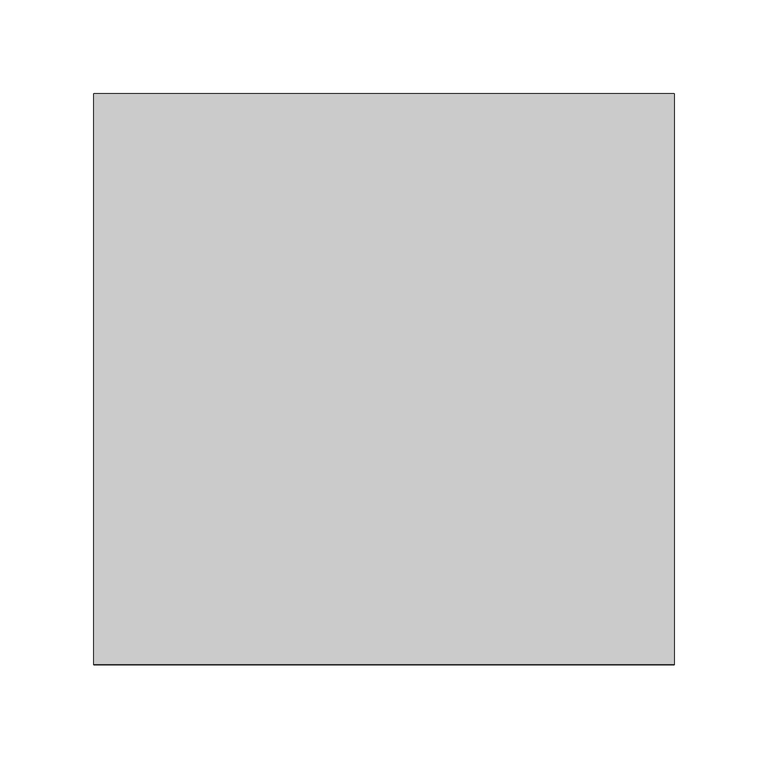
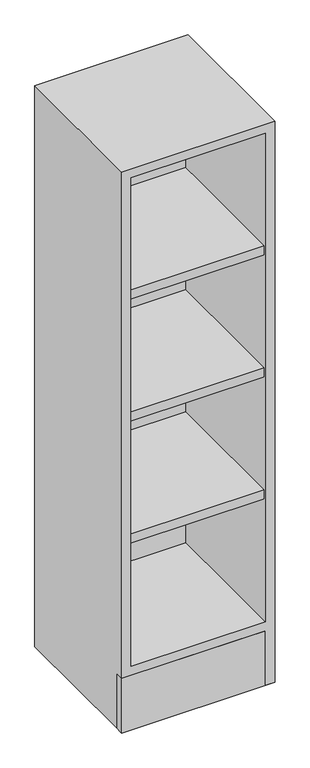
"""IFC4 building model written with IfcOpenShell, lengths in millimetres: furniture geometry, Hamilton-Sorter_Modular-Casework_Storage-Cabinet_Open : Hamilton-Sorter_Modular-Casework_Storage-Cabinet_Open 2."""

from ifc_helpers import new_model, si_unit, frame, origin, origin_with_axes, place, context, project, spatial, polyline, outline, extrude, faceted_brep, source, transform, mapped, element, save


def furniture_623da044(model_context):
    return source(origin(), model_context, "Body", "SolidModel", [
        faceted_brep([(-135.95, -742.95, 116.8908), (-135.95, -742.95, 0.0), (-135.95, -457.0, 0.0), (-135.95, -457.0, 116.8908), (-135.95, -762.0, 1180.95), (-135.95, -762.0, 135.9408), (-135.95, -482.4, 135.9408), (-135.95, -482.4, 1180.95), (-155.0, -762.0, 1200.0), (-155.0, -457.0, 1200.0), (-155.0, -457.0, 0.0), (-155.0, -742.95, 0.0), (-155.0, -742.95, 116.8908), (-155.0, -762.0, 116.8908), (135.95, -762.0, 116.8908), (135.95, -762.0, 0.0), (155.0, -762.0, 0.0), (155.0, -762.0, 1200.0), (135.95, -762.0, 1180.95), (135.95, -762.0, 135.9408), (135.95, -457.0, 116.8908), (155.0, -457.0, 1200.0), (155.0, -457.0, 0.0), (135.95, -457.0, 0.0), (135.95, -482.4, 1180.95), (135.95, -482.4, 135.9408)], [[[0, 1, 2, 3]], [[4, 5, 6, 7]], [[8, 9, 10, 11, 12, 13]], [[8, 13, 14, 15, 16, 17], [4, 18, 19, 5]], [[13, 12, 0, 3, 20, 14]], [[1, 0, 12, 11]], [[2, 1, 11, 10]], [[10, 9, 21, 22, 23, 20, 3, 2]], [[21, 9, 8, 17]], [[18, 4, 7, 24]], [[24, 7, 6, 25]], [[25, 6, 5, 19]], [[17, 16, 22, 21]], [[19, 18, 24, 25]], [[23, 15, 14, 20]], [[22, 16, 15, 23]]]),
        extrude(outline(polyline([(155.0, -742.95), (155.0, -762.0), (-155.0, -762.0), (-155.0, -742.95), (155.0, -742.95)])), origin_with_axes(), (0.0, 0.0, 1.0), 116.8908),
        extrude(outline(polyline([(135.95, -482.4), (135.95, -758.825), (-135.95, -758.825), (-135.95, -482.4), (135.95, -482.4)])), frame((0.0, 0.0, 919.6977), z_axis=(0.0, 0.0, 1.0), x_axis=(1.0, 0.0, 0.0)), (0.0, 0.0, 1.0), 19.05),
        extrude(outline(polyline([(135.95, -482.4), (135.95, -758.825), (-135.95, -758.825), (-135.95, -482.4), (135.95, -482.4)])), frame((0.0, 0.0, 397.1931), z_axis=(0.0, 0.0, 1.0), x_axis=(1.0, 0.0, 0.0)), (0.0, 0.0, 1.0), 19.05),
        extrude(outline(polyline([(135.95, -482.4), (135.95, -758.825), (-135.95, -758.825), (-135.95, -482.4), (135.95, -482.4)])), frame((0.0, 0.0, 658.4454), z_axis=(0.0, 0.0, 1.0), x_axis=(1.0, 0.0, 0.0)), (0.0, 0.0, 1.0), 19.05),
    ])


if __name__ == "__main__":
    model = new_model("IFC4")
    model_context = context("Model", 3, world=origin())
    ifc_project = project(units=[si_unit("LENGTHUNIT", "METRE", prefix="MILLI")], contexts=[model_context])
    site = spatial("IfcSite", under=ifc_project)
    building = spatial("IfcBuilding", under=site)
    placement = place(None, origin())
    furniture_shape = furniture_623da044(model_context)
    element("IfcFurniture", 1, ObjectType="Hamilton-Sorter_Modular-Casework_Storage-Cabinet_Open : Hamilton-Sorter_Modular-Casework_Storage-Cabinet_Open 2", at=placement, inside=building, context=model_context, shape_type="MappedRepresentation", body=[
        mapped(furniture_shape, transform((0.0, 0.0, 0.0), x_axis=(1.0, 0.0, 0.0), y_axis=(0.0, 1.0, 0.0), z_axis=(0.0, 0.0, 1.0))),
    ])
    save(model, "model.ifc")
